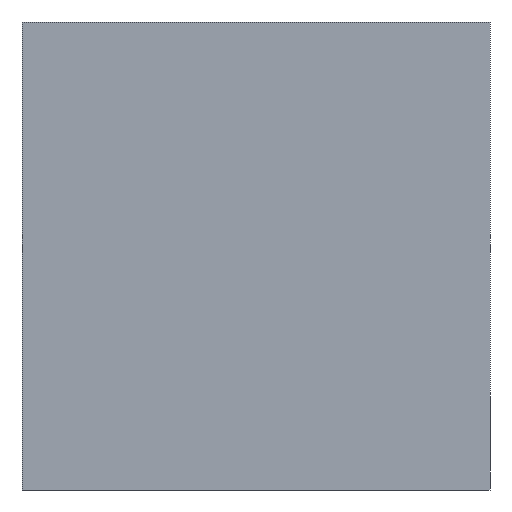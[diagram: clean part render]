
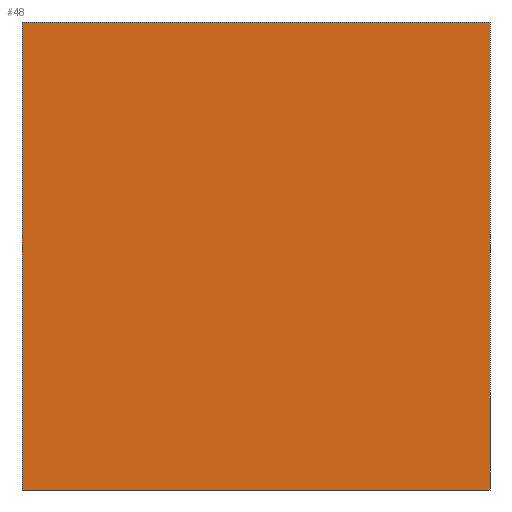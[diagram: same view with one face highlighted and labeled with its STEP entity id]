
A CAD part, left-side view. The second image highlights one B-rep face of the part: STEP entity #48.
In plain terms, the highlighted planar face has unit normal (-1, 0, 0).
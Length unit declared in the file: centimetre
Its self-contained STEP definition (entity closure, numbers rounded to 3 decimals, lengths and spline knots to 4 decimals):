
#48 = ADVANCED_FACE ( 'NONE', ( #265 ), #329, .F. ) ;
#50 = CARTESIAN_POINT ( 'NONE',  ( 0., 1000., 0. ) ) ;
#61 = LINE ( 'NONE', #230, #129 ) ;
#67 = ORIENTED_EDGE ( 'NONE', *, *, #313, .T. ) ;
#78 = DIRECTION ( 'NONE',  ( 0., 0., -1. ) ) ;
#85 = CARTESIAN_POINT ( 'NONE',  ( 0., 0., 1000. ) ) ;
#92 = DIRECTION ( 'NONE',  ( 0., 0., -1. ) ) ;
#112 = CARTESIAN_POINT ( 'NONE',  ( 0., 1000., 1000. ) ) ;
#128 = DIRECTION ( 'NONE',  ( 0., -1., 0. ) ) ;
#129 = VECTOR ( 'NONE', #92, 100. ) ;
#142 = VERTEX_POINT ( 'NONE', #85 ) ;
#152 = LINE ( 'NONE', #220, #204 ) ;
#173 = AXIS2_PLACEMENT_3D ( 'NONE', #112, #363, #78 ) ;
#182 = DIRECTION ( 'NONE',  ( 0., 0., -1. ) ) ;
#195 = ORIENTED_EDGE ( 'NONE', *, *, #410, .T. ) ;
#204 = VECTOR ( 'NONE', #361, 100. ) ;
#211 = VECTOR ( 'NONE', #128, 100. ) ;
#212 = ORIENTED_EDGE ( 'NONE', *, *, #387, .F. ) ;
#213 = ORIENTED_EDGE ( 'NONE', *, *, #306, .F. ) ;
#220 = CARTESIAN_POINT ( 'NONE',  ( 0., 1000., 1000. ) ) ;
#230 = CARTESIAN_POINT ( 'NONE',  ( 0., 0., 1000. ) ) ;
#231 = VERTEX_POINT ( 'NONE', #297 ) ;
#234 = LINE ( 'NONE', #50, #211 ) ;
#255 = CARTESIAN_POINT ( 'NONE',  ( 0., 1000., 1000. ) ) ;
#263 = CARTESIAN_POINT ( 'NONE',  ( 0., 1000., 1000. ) ) ;
#265 = FACE_OUTER_BOUND ( 'NONE', #383, .T. ) ;
#295 = VECTOR ( 'NONE', #182, 100. ) ;
#297 = CARTESIAN_POINT ( 'NONE',  ( 0., 0., 0. ) ) ;
#303 = LINE ( 'NONE', #255, #295 ) ;
#306 = EDGE_CURVE ( 'NONE', #324, #142, #152, .T. ) ;
#313 = EDGE_CURVE ( 'NONE', #324, #348, #303, .T. ) ;
#324 = VERTEX_POINT ( 'NONE', #263 ) ;
#329 = PLANE ( 'NONE',  #173 ) ;
#348 = VERTEX_POINT ( 'NONE', #374 ) ;
#361 = DIRECTION ( 'NONE',  ( 0., -1., 0. ) ) ;
#363 = DIRECTION ( 'NONE',  ( 1., 0., 0. ) ) ;
#374 = CARTESIAN_POINT ( 'NONE',  ( 0., 1000., 0. ) ) ;
#383 = EDGE_LOOP ( 'NONE', ( #195, #212, #213, #67 ) ) ;
#387 = EDGE_CURVE ( 'NONE', #142, #231, #61, .T. ) ;
#410 = EDGE_CURVE ( 'NONE', #348, #231, #234, .T. ) ;
